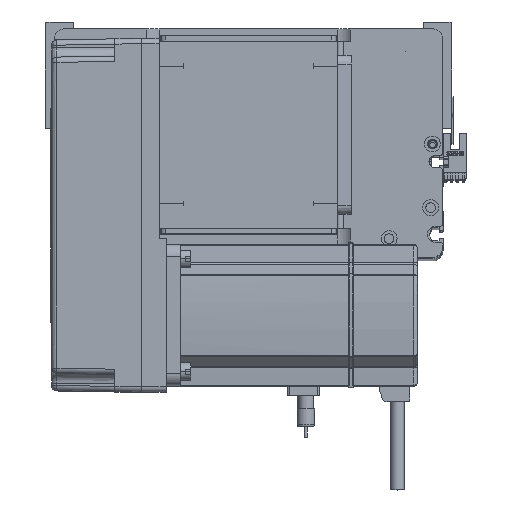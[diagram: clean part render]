
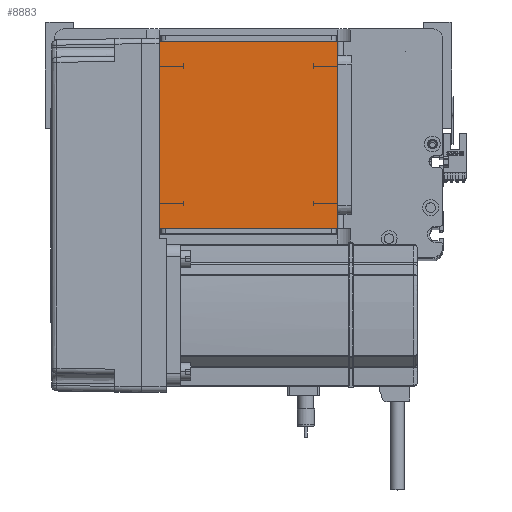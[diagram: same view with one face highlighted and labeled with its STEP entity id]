
A CAD part, top view. The second image highlights one B-rep face of the part: STEP entity #8883.
In plain terms, the highlighted planar face has unit normal (0, 0, 1).
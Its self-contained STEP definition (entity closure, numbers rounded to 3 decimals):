
#179 = VECTOR ( 'NONE', #34920, 1000. ) ;
#454 = EDGE_CURVE ( 'NONE', #47535, #23260, #16048, .T. ) ;
#2393 = CARTESIAN_POINT ( 'NONE',  ( -50.5, 122., 115. ) ) ;
#2802 = CARTESIAN_POINT ( 'NONE',  ( -50.5, 122., 115. ) ) ;
#4946 = VECTOR ( 'NONE', #27215, 1000. ) ;
#6890 = DIRECTION ( 'NONE',  ( 0., 1., 0. ) ) ;
#7699 = PLANE ( 'NONE',  #42689 ) ;
#8285 = LINE ( 'NONE', #40219, #47559 ) ;
#8883 = ADVANCED_FACE ( 'NONE', ( #22497 ), #7699, .T. ) ;
#9838 = LINE ( 'NONE', #27114, #50339 ) ;
#13714 = EDGE_CURVE ( 'NONE', #23260, #24730, #8285, .T. ) ;
#15389 = CARTESIAN_POINT ( 'NONE',  ( -50.5, 122., 115. ) ) ;
#16048 = LINE ( 'NONE', #2393, #4946 ) ;
#18209 = VERTEX_POINT ( 'NONE', #44386 ) ;
#19144 = CARTESIAN_POINT ( 'NONE',  ( -50.5, 16., 115. ) ) ;
#22497 = FACE_OUTER_BOUND ( 'NONE', #25124, .T. ) ;
#22673 = ORIENTED_EDGE ( 'NONE', *, *, #13714, .T. ) ;
#23113 = CARTESIAN_POINT ( 'NONE',  ( 0., 0., 115. ) ) ;
#23260 = VERTEX_POINT ( 'NONE', #19144 ) ;
#24104 = DIRECTION ( 'NONE',  ( 1., 0., 0. ) ) ;
#24730 = VERTEX_POINT ( 'NONE', #35895 ) ;
#25124 = EDGE_LOOP ( 'NONE', ( #32768, #22673, #27191, #38823 ) ) ;
#27061 = DIRECTION ( 'NONE',  ( 0., 0., 1. ) ) ;
#27114 = CARTESIAN_POINT ( 'NONE',  ( 50.5, 122., 115. ) ) ;
#27191 = ORIENTED_EDGE ( 'NONE', *, *, #31653, .T. ) ;
#27215 = DIRECTION ( 'NONE',  ( 0., -1., 0. ) ) ;
#30455 = EDGE_CURVE ( 'NONE', #18209, #47535, #41189, .T. ) ;
#30662 = DIRECTION ( 'NONE',  ( 1., 0., 0. ) ) ;
#31653 = EDGE_CURVE ( 'NONE', #24730, #18209, #9838, .T. ) ;
#32768 = ORIENTED_EDGE ( 'NONE', *, *, #454, .T. ) ;
#34920 = DIRECTION ( 'NONE',  ( -1., 0., 0. ) ) ;
#35895 = CARTESIAN_POINT ( 'NONE',  ( 50.5, 16., 115. ) ) ;
#38823 = ORIENTED_EDGE ( 'NONE', *, *, #30455, .T. ) ;
#40219 = CARTESIAN_POINT ( 'NONE',  ( -50.5, 16., 115. ) ) ;
#41189 = LINE ( 'NONE', #15389, #179 ) ;
#42689 = AXIS2_PLACEMENT_3D ( 'NONE', #23113, #27061, #30662 ) ;
#44386 = CARTESIAN_POINT ( 'NONE',  ( 50.5, 122., 115. ) ) ;
#47535 = VERTEX_POINT ( 'NONE', #2802 ) ;
#47559 = VECTOR ( 'NONE', #24104, 1000. ) ;
#50339 = VECTOR ( 'NONE', #6890, 1000. ) ;
